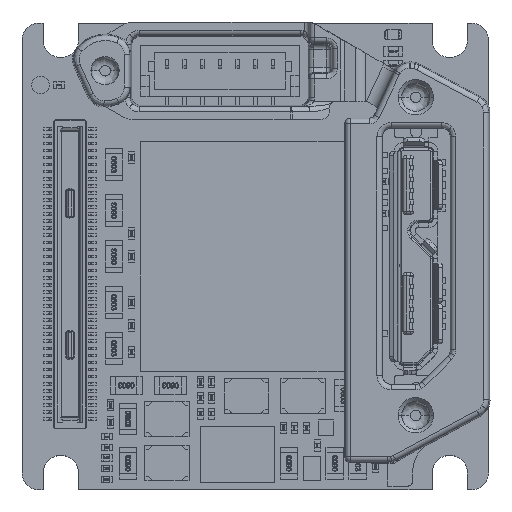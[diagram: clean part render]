
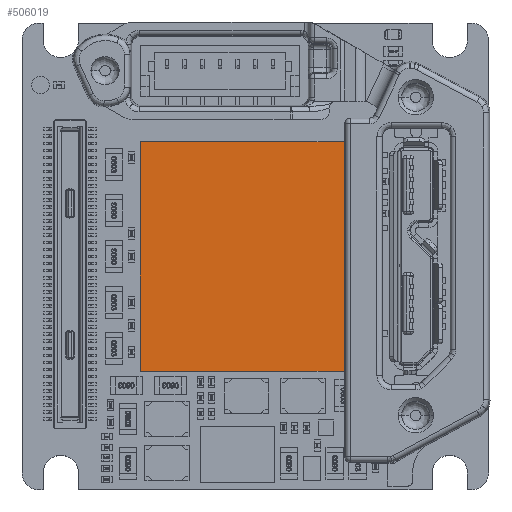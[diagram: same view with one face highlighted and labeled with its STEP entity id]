
A CAD part, top view. The second image highlights one B-rep face of the part: STEP entity #506019.
In plain terms, the highlighted planar face has unit normal (0, 0, 1).
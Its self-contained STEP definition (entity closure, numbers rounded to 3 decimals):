
#45566 = ORIENTED_EDGE ( 'NONE', *, *, #359820, .F. ) ;
#56076 = AXIS2_PLACEMENT_3D ( 'NONE', #418928, #92593, #275262 ) ;
#56618 = FACE_OUTER_BOUND ( 'NONE', #460773, .T. ) ;
#58493 = EDGE_CURVE ( 'NONE', #464451, #290547, #310044, .T. ) ;
#64933 = LINE ( 'NONE', #70767, #537846 ) ;
#70767 = CARTESIAN_POINT ( 'NONE',  ( 6.5, -6.5, 6.167 ) ) ;
#82363 = CARTESIAN_POINT ( 'NONE',  ( -6.5, 6.5, 6.167 ) ) ;
#92593 = DIRECTION ( 'NONE',  ( 0., 0., -1. ) ) ;
#93906 = VERTEX_POINT ( 'NONE', #160457 ) ;
#107614 = CARTESIAN_POINT ( 'NONE',  ( 6.5, 6.5, 6.167 ) ) ;
#109760 = ORIENTED_EDGE ( 'NONE', *, *, #477807, .F. ) ;
#124835 = CARTESIAN_POINT ( 'NONE',  ( -6.5, -6.5, 6.167 ) ) ;
#156956 = DIRECTION ( 'NONE',  ( 0., 1., 0. ) ) ;
#159945 = LINE ( 'NONE', #387587, #505612 ) ;
#160457 = CARTESIAN_POINT ( 'NONE',  ( 6.5, -6.5, 6.167 ) ) ;
#175136 = DIRECTION ( 'NONE',  ( 1., 0., 0. ) ) ;
#208679 = VECTOR ( 'NONE', #556638, 1000. ) ;
#236146 = PLANE ( 'NONE',  #56076 ) ;
#275262 = DIRECTION ( 'NONE',  ( 0., -1., 0. ) ) ;
#286880 = VECTOR ( 'NONE', #175136, 1000. ) ;
#290547 = VERTEX_POINT ( 'NONE', #107614 ) ;
#305421 = EDGE_CURVE ( 'NONE', #530448, #464451, #159945, .T. ) ;
#310044 = LINE ( 'NONE', #82363, #286880 ) ;
#359820 = EDGE_CURVE ( 'NONE', #290547, #93906, #449091, .T. ) ;
#368092 = CARTESIAN_POINT ( 'NONE',  ( 6.5, 6.5, 6.167 ) ) ;
#387587 = CARTESIAN_POINT ( 'NONE',  ( -6.5, -6.5, 6.167 ) ) ;
#418928 = CARTESIAN_POINT ( 'NONE',  ( 0., 0., 6.167 ) ) ;
#449091 = LINE ( 'NONE', #368092, #208679 ) ;
#460773 = EDGE_LOOP ( 'NONE', ( #109760, #45566, #470921, #475772 ) ) ;
#464451 = VERTEX_POINT ( 'NONE', #550887 ) ;
#470921 = ORIENTED_EDGE ( 'NONE', *, *, #58493, .F. ) ;
#475772 = ORIENTED_EDGE ( 'NONE', *, *, #305421, .F. ) ;
#477807 = EDGE_CURVE ( 'NONE', #93906, #530448, #64933, .T. ) ;
#505612 = VECTOR ( 'NONE', #156956, 1000. ) ;
#506019 = ADVANCED_FACE ( 'NONE', ( #56618 ), #236146, .F. ) ;
#530448 = VERTEX_POINT ( 'NONE', #124835 ) ;
#537846 = VECTOR ( 'NONE', #570946, 1000. ) ;
#550887 = CARTESIAN_POINT ( 'NONE',  ( -6.5, 6.5, 6.167 ) ) ;
#556638 = DIRECTION ( 'NONE',  ( 0., -1., 0. ) ) ;
#570946 = DIRECTION ( 'NONE',  ( -1., 0., 0. ) ) ;
